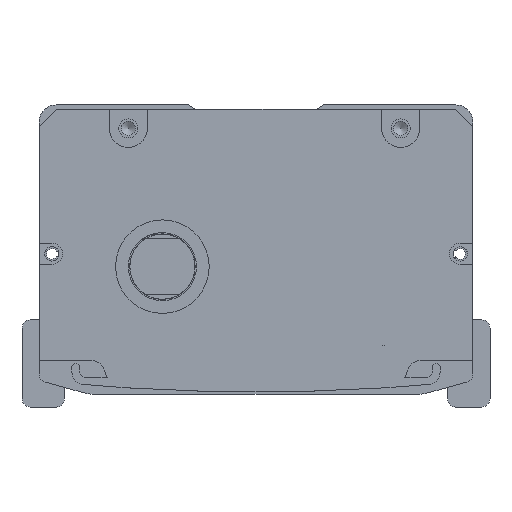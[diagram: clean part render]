
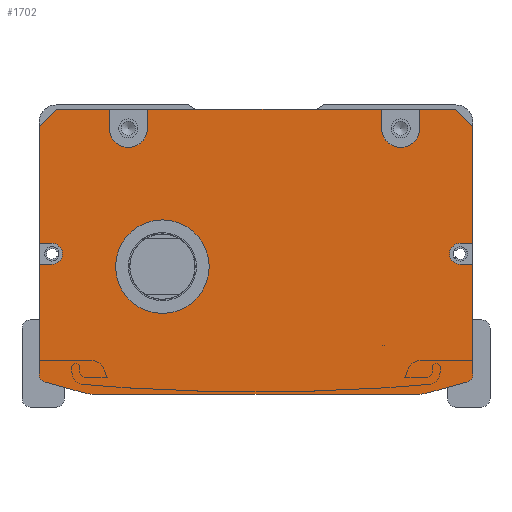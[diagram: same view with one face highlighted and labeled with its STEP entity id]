
A CAD part, front view. The second image highlights one B-rep face of the part: STEP entity #1702.
In plain terms, the highlighted planar face has unit normal (0, -1, 0).
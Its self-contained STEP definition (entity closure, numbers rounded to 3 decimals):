
#1014=FACE_BOUND('',#3192,.T.);
#1015=FACE_BOUND('',#3193,.T.);
#1702=ADVANCED_FACE('',(#1014,#1015),#2327,.F.);
#2327=PLANE('',#12171);
#3192=EDGE_LOOP('',(#5623,#5624,#5625,#5626,#5627,#5628,#5629,#5630,#5631,
#5632,#5633,#5634,#5635,#5636,#5637,#5638,#5639,#5640,#5641,#5642,#5643,
#5644,#5645,#5646,#5647,#5648,#5649,#5650));
#3193=EDGE_LOOP('',(#5651));
#4199=CIRCLE('',#12162,4.5);
#4200=CIRCLE('',#12163,4.5);
#4201=CIRCLE('',#12164,2.5);
#4202=CIRCLE('',#12165,2.);
#4203=CIRCLE('',#12166,10.);
#4204=CIRCLE('',#12167,10.);
#4205=CIRCLE('',#12168,2.);
#4206=CIRCLE('',#12169,2.5);
#4207=CIRCLE('',#12170,11.);
#5623=ORIENTED_EDGE('',*,*,#9032,.T.);
#5624=ORIENTED_EDGE('',*,*,#9452,.T.);
#5625=ORIENTED_EDGE('',*,*,#9453,.T.);
#5626=ORIENTED_EDGE('',*,*,#9454,.F.);
#5627=ORIENTED_EDGE('',*,*,#9455,.T.);
#5628=ORIENTED_EDGE('',*,*,#9456,.F.);
#5629=ORIENTED_EDGE('',*,*,#9457,.T.);
#5630=ORIENTED_EDGE('',*,*,#9458,.F.);
#5631=ORIENTED_EDGE('',*,*,#9459,.T.);
#5632=ORIENTED_EDGE('',*,*,#9460,.F.);
#5633=ORIENTED_EDGE('',*,*,#9461,.T.);
#5634=ORIENTED_EDGE('',*,*,#9462,.T.);
#5635=ORIENTED_EDGE('',*,*,#9064,.T.);
#5636=ORIENTED_EDGE('',*,*,#9463,.T.);
#5637=ORIENTED_EDGE('',*,*,#9464,.T.);
#5638=ORIENTED_EDGE('',*,*,#9465,.T.);
#5639=ORIENTED_EDGE('',*,*,#9060,.T.);
#5640=ORIENTED_EDGE('',*,*,#9466,.T.);
#5641=ORIENTED_EDGE('',*,*,#9467,.T.);
#5642=ORIENTED_EDGE('',*,*,#9468,.T.);
#5643=ORIENTED_EDGE('',*,*,#9469,.T.);
#5644=ORIENTED_EDGE('',*,*,#9470,.T.);
#5645=ORIENTED_EDGE('',*,*,#9471,.T.);
#5646=ORIENTED_EDGE('',*,*,#9472,.T.);
#5647=ORIENTED_EDGE('',*,*,#9036,.T.);
#5648=ORIENTED_EDGE('',*,*,#9473,.T.);
#5649=ORIENTED_EDGE('',*,*,#9474,.T.);
#5650=ORIENTED_EDGE('',*,*,#9475,.T.);
#5651=ORIENTED_EDGE('',*,*,#9476,.T.);
#7876=VERTEX_POINT('',#16794);
#7877=VERTEX_POINT('',#16796);
#7880=VERTEX_POINT('',#16802);
#7881=VERTEX_POINT('',#16804);
#7902=VERTEX_POINT('',#16849);
#7903=VERTEX_POINT('',#16851);
#7906=VERTEX_POINT('',#16857);
#7907=VERTEX_POINT('',#16859);
#8174=VERTEX_POINT('',#17660);
#8175=VERTEX_POINT('',#17662);
#8176=VERTEX_POINT('',#17664);
#8177=VERTEX_POINT('',#17666);
#8178=VERTEX_POINT('',#17668);
#8179=VERTEX_POINT('',#17670);
#8180=VERTEX_POINT('',#17672);
#8181=VERTEX_POINT('',#17674);
#8182=VERTEX_POINT('',#17676);
#8183=VERTEX_POINT('',#17678);
#8184=VERTEX_POINT('',#17681);
#8185=VERTEX_POINT('',#17683);
#8186=VERTEX_POINT('',#17686);
#8187=VERTEX_POINT('',#17688);
#8188=VERTEX_POINT('',#17690);
#8189=VERTEX_POINT('',#17692);
#8190=VERTEX_POINT('',#17694);
#8191=VERTEX_POINT('',#17696);
#8192=VERTEX_POINT('',#17699);
#8193=VERTEX_POINT('',#17701);
#8194=VERTEX_POINT('',#17704);
#9032=EDGE_CURVE('',#7877,#7876,#10493,.T.);
#9036=EDGE_CURVE('',#7881,#7880,#10497,.T.);
#9060=EDGE_CURVE('',#7903,#7902,#10521,.T.);
#9064=EDGE_CURVE('',#7907,#7906,#10525,.T.);
#9452=EDGE_CURVE('',#7876,#8174,#10758,.T.);
#9453=EDGE_CURVE('',#8174,#8175,#10759,.T.);
#9454=EDGE_CURVE('',#8176,#8175,#10760,.T.);
#9455=EDGE_CURVE('',#8176,#8177,#4199,.T.);
#9456=EDGE_CURVE('',#8178,#8177,#10761,.T.);
#9457=EDGE_CURVE('',#8178,#8179,#10762,.T.);
#9458=EDGE_CURVE('',#8180,#8179,#10763,.T.);
#9459=EDGE_CURVE('',#8180,#8181,#4200,.T.);
#9460=EDGE_CURVE('',#8182,#8181,#10764,.T.);
#9461=EDGE_CURVE('',#8182,#8183,#10765,.T.);
#9462=EDGE_CURVE('',#8183,#7907,#10766,.T.);
#9463=EDGE_CURVE('',#7906,#8184,#10767,.T.);
#9464=EDGE_CURVE('',#8184,#8185,#4201,.T.);
#9465=EDGE_CURVE('',#8185,#7903,#10768,.T.);
#9466=EDGE_CURVE('',#7902,#8186,#4202,.T.);
#9467=EDGE_CURVE('',#8186,#8187,#10769,.T.);
#9468=EDGE_CURVE('',#8187,#8188,#4203,.T.);
#9469=EDGE_CURVE('',#8188,#8189,#10770,.T.);
#9470=EDGE_CURVE('',#8189,#8190,#4204,.T.);
#9471=EDGE_CURVE('',#8190,#8191,#10771,.T.);
#9472=EDGE_CURVE('',#8191,#7881,#4205,.T.);
#9473=EDGE_CURVE('',#7880,#8192,#10772,.T.);
#9474=EDGE_CURVE('',#8192,#8193,#4206,.T.);
#9475=EDGE_CURVE('',#8193,#7877,#10773,.T.);
#9476=EDGE_CURVE('',#8194,#8194,#4207,.T.);
#10493=LINE('',#16795,#11146);
#10497=LINE('',#16803,#11150);
#10521=LINE('',#16850,#11174);
#10525=LINE('',#16858,#11178);
#10758=LINE('',#17659,#11411);
#10759=LINE('',#17661,#11412);
#10760=LINE('',#17663,#11413);
#10761=LINE('',#17667,#11414);
#10762=LINE('',#17669,#11415);
#10763=LINE('',#17671,#11416);
#10764=LINE('',#17675,#11417);
#10765=LINE('',#17677,#11418);
#10766=LINE('',#17679,#11419);
#10767=LINE('',#17680,#11420);
#10768=LINE('',#17684,#11421);
#10769=LINE('',#17687,#11422);
#10770=LINE('',#17691,#11423);
#10771=LINE('',#17695,#11424);
#10772=LINE('',#17698,#11425);
#10773=LINE('',#17702,#11426);
#11146=VECTOR('',#13404,1.);
#11150=VECTOR('',#13408,1.);
#11174=VECTOR('',#13434,1.);
#11178=VECTOR('',#13438,1.);
#11411=VECTOR('',#14273,1.);
#11412=VECTOR('',#14274,1.);
#11413=VECTOR('',#14275,1.);
#11414=VECTOR('',#14278,1.);
#11415=VECTOR('',#14279,1.);
#11416=VECTOR('',#14280,1.);
#11417=VECTOR('',#14283,1.);
#11418=VECTOR('',#14284,1.);
#11419=VECTOR('',#14285,1.);
#11420=VECTOR('',#14286,1.);
#11421=VECTOR('',#14289,1.);
#11422=VECTOR('',#14292,1.);
#11423=VECTOR('',#14295,1.);
#11424=VECTOR('',#14298,1.);
#11425=VECTOR('',#14301,1.);
#11426=VECTOR('',#14304,1.);
#12162=AXIS2_PLACEMENT_3D('',#17665,#14276,#14277);
#12163=AXIS2_PLACEMENT_3D('',#17673,#14281,#14282);
#12164=AXIS2_PLACEMENT_3D('',#17682,#14287,#14288);
#12165=AXIS2_PLACEMENT_3D('',#17685,#14290,#14291);
#12166=AXIS2_PLACEMENT_3D('',#17689,#14293,#14294);
#12167=AXIS2_PLACEMENT_3D('',#17693,#14296,#14297);
#12168=AXIS2_PLACEMENT_3D('',#17697,#14299,#14300);
#12169=AXIS2_PLACEMENT_3D('',#17700,#14302,#14303);
#12170=AXIS2_PLACEMENT_3D('',#17703,#14305,#14306);
#12171=AXIS2_PLACEMENT_3D('',#17705,#14307,#14308);
#13404=DIRECTION('',(0.,0.,1.));
#13408=DIRECTION('',(0.,0.,1.));
#13434=DIRECTION('',(0.,0.,-1.));
#13438=DIRECTION('',(0.,0.,-1.));
#14273=DIRECTION('',(-0.707,0.,0.707));
#14274=DIRECTION('',(-1.,0.,0.));
#14275=DIRECTION('',(0.,0.,1.));
#14276=DIRECTION('',(0.,1.,0.));
#14277=DIRECTION('',(0.,0.,1.));
#14278=DIRECTION('',(0.,0.,-1.));
#14279=DIRECTION('',(-1.,0.,0.));
#14280=DIRECTION('',(0.,0.,1.));
#14281=DIRECTION('',(0.,1.,0.));
#14282=DIRECTION('',(0.,0.,1.));
#14283=DIRECTION('',(0.,0.,-1.));
#14284=DIRECTION('',(-1.,0.,0.));
#14285=DIRECTION('',(-0.707,0.,-0.707));
#14286=DIRECTION('',(1.,0.,0.));
#14287=DIRECTION('',(0.,1.,0.));
#14288=DIRECTION('',(0.,0.,1.));
#14289=DIRECTION('',(-1.,0.,0.));
#14290=DIRECTION('',(0.,-1.,0.));
#14291=DIRECTION('',(0.,0.,1.));
#14292=DIRECTION('',(0.963,0.,-0.269));
#14293=DIRECTION('',(0.,-1.,0.));
#14294=DIRECTION('',(0.,0.,1.));
#14295=DIRECTION('',(1.,0.,0.));
#14296=DIRECTION('',(0.,-1.,0.));
#14297=DIRECTION('',(0.,0.,-1.));
#14298=DIRECTION('',(0.963,0.,0.269));
#14299=DIRECTION('',(0.,-1.,0.));
#14300=DIRECTION('',(0.,0.,-1.));
#14301=DIRECTION('',(-1.,0.,0.));
#14302=DIRECTION('',(0.,1.,0.));
#14303=DIRECTION('',(0.,0.,1.));
#14304=DIRECTION('',(1.,0.,0.));
#14305=DIRECTION('',(0.,1.,0.));
#14306=DIRECTION('',(0.,0.,1.));
#14307=DIRECTION('',(0.,1.,0.));
#14308=DIRECTION('',(1.,0.,0.));
#16794=CARTESIAN_POINT('',(47.808,-807.5,-5.));
#16795=CARTESIAN_POINT('',(47.808,-807.5,-1.));
#16796=CARTESIAN_POINT('',(47.808,-807.5,-32.5));
#16802=CARTESIAN_POINT('',(47.808,-807.5,-37.5));
#16803=CARTESIAN_POINT('',(47.808,-807.5,-1.));
#16804=CARTESIAN_POINT('',(47.808,-807.5,-63.212));
#16849=CARTESIAN_POINT('',(-54.192,-807.5,-63.212));
#16850=CARTESIAN_POINT('',(-54.192,-807.5,-62.));
#16851=CARTESIAN_POINT('',(-54.192,-807.5,-37.5));
#16857=CARTESIAN_POINT('',(-54.192,-807.5,-32.5));
#16858=CARTESIAN_POINT('',(-54.192,-807.5,-62.));
#16859=CARTESIAN_POINT('',(-54.192,-807.5,-5.));
#17659=CARTESIAN_POINT('',(43.808,-807.5,-1.));
#17660=CARTESIAN_POINT('',(43.808,-807.5,-1.));
#17661=CARTESIAN_POINT('',(-3.192,-807.5,-1.));
#17662=CARTESIAN_POINT('',(35.308,-807.5,-1.));
#17663=CARTESIAN_POINT('',(35.308,-807.5,-1.));
#17664=CARTESIAN_POINT('',(35.308,-807.5,-5.5));
#17665=CARTESIAN_POINT('',(30.808,-807.5,-5.5));
#17666=CARTESIAN_POINT('',(26.308,-807.5,-5.5));
#17667=CARTESIAN_POINT('',(26.308,-807.5,-1.));
#17668=CARTESIAN_POINT('',(26.308,-807.5,-1.));
#17669=CARTESIAN_POINT('',(-54.192,-807.5,-1.));
#17670=CARTESIAN_POINT('',(-28.692,-807.5,-1.));
#17671=CARTESIAN_POINT('',(-28.692,-807.5,-3.5));
#17672=CARTESIAN_POINT('',(-28.692,-807.5,-5.5));
#17673=CARTESIAN_POINT('',(-33.192,-807.5,-5.5));
#17674=CARTESIAN_POINT('',(-37.692,-807.5,-5.5));
#17675=CARTESIAN_POINT('',(-37.692,-807.5,-1.));
#17676=CARTESIAN_POINT('',(-37.692,-807.5,-1.));
#17677=CARTESIAN_POINT('',(-54.192,-807.5,-1.));
#17678=CARTESIAN_POINT('',(-50.192,-807.5,-1.));
#17679=CARTESIAN_POINT('',(-54.192,-807.5,-5.));
#17680=CARTESIAN_POINT('',(-3.192,-807.5,-32.5));
#17681=CARTESIAN_POINT('',(-51.192,-807.5,-32.5));
#17682=CARTESIAN_POINT('',(-51.192,-807.5,-35.));
#17683=CARTESIAN_POINT('',(-51.192,-807.5,-37.5));
#17684=CARTESIAN_POINT('',(-3.192,-807.5,-37.5));
#17685=CARTESIAN_POINT('',(-52.192,-807.5,-63.212));
#17686=CARTESIAN_POINT('',(-52.731,-807.5,-65.138));
#17687=CARTESIAN_POINT('',(-55.807,-807.5,-64.279));
#17688=CARTESIAN_POINT('',(-43.809,-807.5,-67.631));
#17689=CARTESIAN_POINT('',(-41.118,-807.5,-58.));
#17690=CARTESIAN_POINT('',(-41.118,-807.5,-68.));
#17691=CARTESIAN_POINT('',(-54.692,-807.5,-68.));
#17692=CARTESIAN_POINT('',(34.733,-807.5,-68.));
#17693=CARTESIAN_POINT('',(34.733,-807.5,-58.));
#17694=CARTESIAN_POINT('',(37.424,-807.5,-67.631));
#17695=CARTESIAN_POINT('',(49.422,-807.5,-64.279));
#17696=CARTESIAN_POINT('',(46.346,-807.5,-65.138));
#17697=CARTESIAN_POINT('',(45.808,-807.5,-63.212));
#17698=CARTESIAN_POINT('',(-3.192,-807.5,-37.5));
#17699=CARTESIAN_POINT('',(44.808,-807.5,-37.5));
#17700=CARTESIAN_POINT('',(44.808,-807.5,-35.));
#17701=CARTESIAN_POINT('',(44.808,-807.5,-32.5));
#17702=CARTESIAN_POINT('',(-3.192,-807.5,-32.5));
#17703=CARTESIAN_POINT('',(-25.192,-807.5,-38.));
#17704=CARTESIAN_POINT('',(-25.192,-807.5,-27.));
#17705=CARTESIAN_POINT('',(-3.192,-807.5,-1.));
